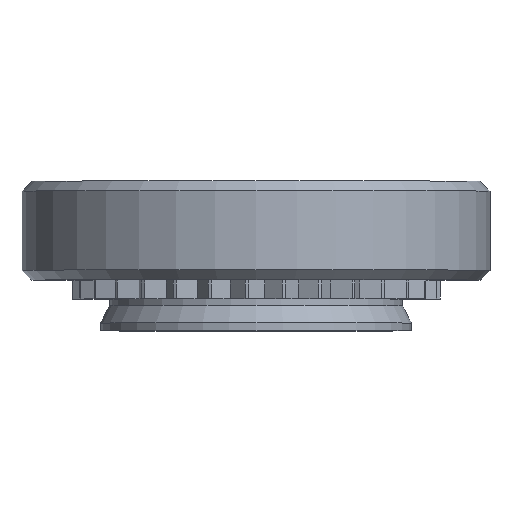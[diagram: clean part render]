
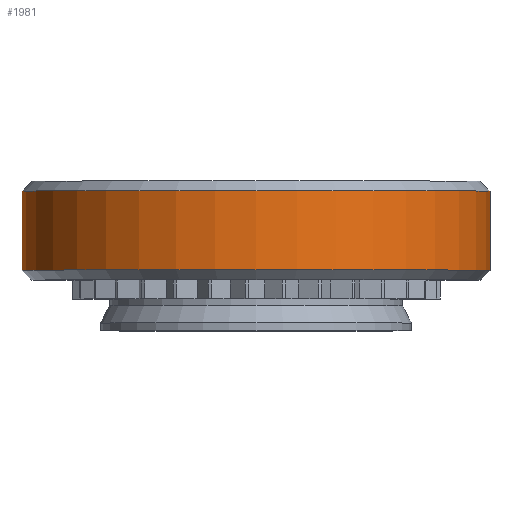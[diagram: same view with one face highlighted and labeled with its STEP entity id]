
A CAD part, top view. The second image highlights one B-rep face of the part: STEP entity #1981.
In plain terms, the highlighted cylindrical face has radius 3.55 mm (diameter 7.1 mm), a full revolution.
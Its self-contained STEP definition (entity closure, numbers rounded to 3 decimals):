
#85=CYLINDRICAL_SURFACE('',#2113,3.55);
#121=FACE_OUTER_BOUND('',#227,.T.);
#227=EDGE_LOOP('',(#1374,#1375,#1376,#1377,#1378,#1379));
#337=LINE('',#2897,#563);
#563=VECTOR('',#2305,3.55);
#789=CIRCLE('',#2111,3.55);
#790=CIRCLE('',#2112,3.55);
#791=CIRCLE('',#2114,3.55);
#792=CIRCLE('',#2115,3.55);
#866=VERTEX_POINT('',#2890);
#867=VERTEX_POINT('',#2892);
#868=VERTEX_POINT('',#2896);
#869=VERTEX_POINT('',#2898);
#1068=EDGE_CURVE('',#866,#867,#789,.T.);
#1069=EDGE_CURVE('',#867,#866,#790,.T.);
#1070=EDGE_CURVE('',#867,#868,#337,.T.);
#1071=EDGE_CURVE('',#869,#868,#791,.T.);
#1072=EDGE_CURVE('',#868,#869,#792,.T.);
#1374=ORIENTED_EDGE('',*,*,#1068,.F.);
#1375=ORIENTED_EDGE('',*,*,#1069,.F.);
#1376=ORIENTED_EDGE('',*,*,#1070,.T.);
#1377=ORIENTED_EDGE('',*,*,#1071,.F.);
#1378=ORIENTED_EDGE('',*,*,#1072,.F.);
#1379=ORIENTED_EDGE('',*,*,#1070,.F.);
#1981=ADVANCED_FACE('',(#121),#85,.T.);
#2111=AXIS2_PLACEMENT_3D('',#2893,#2299,#2300);
#2112=AXIS2_PLACEMENT_3D('',#2894,#2301,#2302);
#2113=AXIS2_PLACEMENT_3D('',#2895,#2303,#2304);
#2114=AXIS2_PLACEMENT_3D('',#2899,#2306,#2307);
#2115=AXIS2_PLACEMENT_3D('',#2900,#2308,#2309);
#2299=DIRECTION('center_axis',(0.,1.,0.));
#2300=DIRECTION('ref_axis',(1.,0.,0.));
#2301=DIRECTION('center_axis',(0.,1.,0.));
#2302=DIRECTION('ref_axis',(1.,0.,0.));
#2303=DIRECTION('center_axis',(0.,1.,0.));
#2304=DIRECTION('ref_axis',(-1.,0.,0.));
#2305=DIRECTION('',(0.,-1.,0.));
#2306=DIRECTION('center_axis',(0.,-1.,0.));
#2307=DIRECTION('ref_axis',(1.,0.,0.));
#2308=DIRECTION('center_axis',(0.,-1.,0.));
#2309=DIRECTION('ref_axis',(1.,0.,0.));
#2890=CARTESIAN_POINT('',(-3.55,2.12,0.));
#2892=CARTESIAN_POINT('',(3.55,2.12,0.));
#2893=CARTESIAN_POINT('Origin',(0.,2.12,0.));
#2894=CARTESIAN_POINT('Origin',(0.,2.12,0.));
#2895=CARTESIAN_POINT('Origin',(0.,1.52,0.));
#2896=CARTESIAN_POINT('',(3.55,0.92,0.));
#2897=CARTESIAN_POINT('',(3.55,1.52,0.));
#2898=CARTESIAN_POINT('',(-3.55,0.92,0.));
#2899=CARTESIAN_POINT('Origin',(0.,0.92,
0.));
#2900=CARTESIAN_POINT('Origin',(0.,0.92,
0.));
